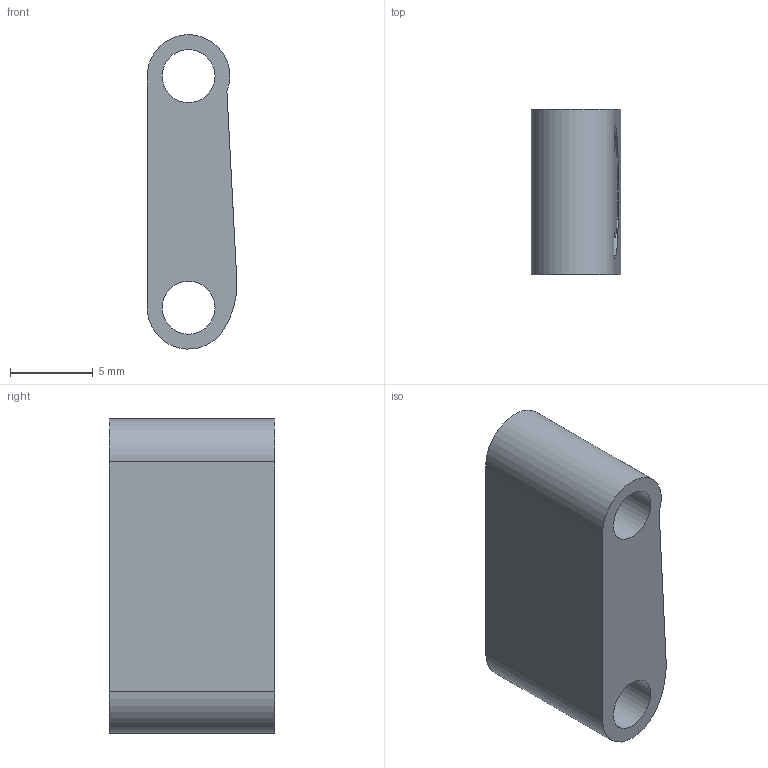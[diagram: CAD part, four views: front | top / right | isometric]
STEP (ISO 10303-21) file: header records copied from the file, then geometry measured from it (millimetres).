
FILE_DESCRIPTION(/* description */ (''),/* implementation_level */ '2;1');
FILE_NAME(/* name */ '6-11-4 Joy spring holder.step',/* time_stamp */ '2025-05-10T22:37:22+02:00',/* author */ (''),/* organization */ (''),/* preprocessor_version */ 'ST-DEVELOPER v20.1',/* originating_system */ 'Autodesk Translation Framework v14.4.0.0',/* authorisation */ '');
FILE_SCHEMA (('AUTOMOTIVE_DESIGN { 1 0 10303 214 3 1 1 }'));
Length unit declared in the file: millimetre
Products named in the file (1): 6-11-4 Joy spring holder
Bounding box: 5.42 x 10 x 18.99 mm (x, y, z)
Volume: 729.2 mm3; surface area: 832.9 mm2
Topology: 1 solids, 1 shells, 14 faces, 30 edges, 20 vertices
Faces by surface type: plane 7, cylinder 7
Full cylindrical faces by diameter (mm): 3.2 x2, 5.5 x1, 8 x1
Entity records: 436 total; most frequent: DIRECTION 74, CARTESIAN_POINT 65, ORIENTED_EDGE 60, EDGE_CURVE 30, AXIS2_PLACEMENT_3D 29, EDGE_LOOP 20, VERTEX_POINT 20, LINE 16
